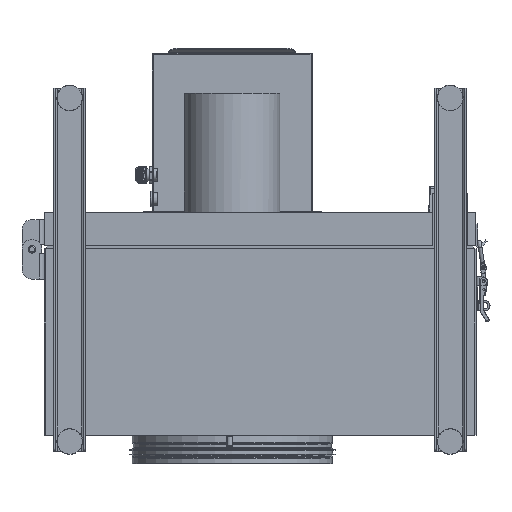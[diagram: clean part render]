
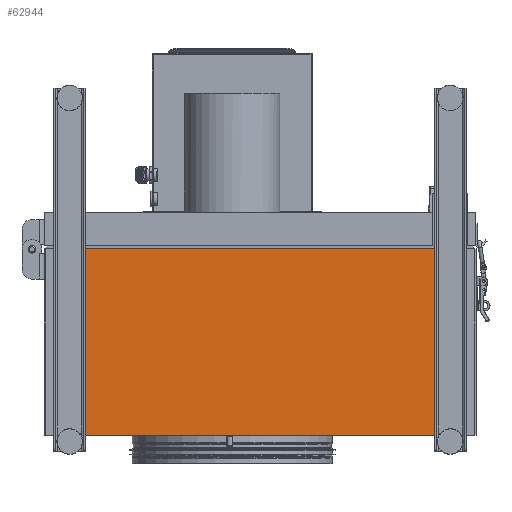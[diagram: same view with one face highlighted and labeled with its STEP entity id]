
A CAD part, left-side view. The second image highlights one B-rep face of the part: STEP entity #62944.
In plain terms, the highlighted planar face has unit normal (-1, 0, 0).
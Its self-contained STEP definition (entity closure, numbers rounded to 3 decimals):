
#4303=FACE_OUTER_BOUND('',#7766,.T.);
#7766=EDGE_LOOP('',(#44224,#44225,#44226,#44227));
#13340=LINE('',#96693,#19372);
#13412=LINE('',#96886,#19444);
#13413=LINE('',#96888,#19445);
#13414=LINE('',#96889,#19446);
#19372=VECTOR('',#72116,10.);
#19444=VECTOR('',#72266,570.);
#19445=VECTOR('',#72267,10.);
#19446=VECTOR('',#72268,570.);
#25629=VERTEX_POINT('',#96690);
#25630=VERTEX_POINT('',#96692);
#25712=VERTEX_POINT('',#96885);
#25713=VERTEX_POINT('',#96887);
#32500=EDGE_CURVE('',#25629,#25630,#13340,.T.);
#32595=EDGE_CURVE('',#25629,#25712,#13412,.T.);
#32596=EDGE_CURVE('',#25713,#25712,#13413,.T.);
#32597=EDGE_CURVE('',#25713,#25630,#13414,.T.);
#44224=ORIENTED_EDGE('',*,*,#32595,.T.);
#44225=ORIENTED_EDGE('',*,*,#32596,.F.);
#44226=ORIENTED_EDGE('',*,*,#32597,.T.);
#44227=ORIENTED_EDGE('',*,*,#32500,.F.);
#57677=PLANE('',#65885);
#62944=ADVANCED_FACE('',(#4303),#57677,.F.);
#65885=AXIS2_PLACEMENT_3D('',#96884,#72264,#72265);
#72116=DIRECTION('',(0.,-1.,0.));
#72264=DIRECTION('center_axis',(1.,0.,0.));
#72265=DIRECTION('ref_axis',(0.,0.,-1.));
#72266=DIRECTION('',(0.,0.,-1.));
#72267=DIRECTION('',(0.,1.,0.));
#72268=DIRECTION('',(0.,0.,1.));
#96690=CARTESIAN_POINT('',(-793.234,619.5,365.351));
#96692=CARTESIAN_POINT('',(-793.234,59.5,365.351));
#96693=CARTESIAN_POINT('',(-793.234,676.9,365.351));
#96884=CARTESIAN_POINT('Origin',(-793.234,339.25,218.601));
#96885=CARTESIAN_POINT('',(-793.234,619.5,71.851));
#96886=CARTESIAN_POINT('',(-793.234,619.5,474.851));
#96887=CARTESIAN_POINT('',(-793.234,59.5,71.851));
#96888=CARTESIAN_POINT('',(-793.234,1.6,71.851));
#96889=CARTESIAN_POINT('',(-793.234,59.5,189.851));
